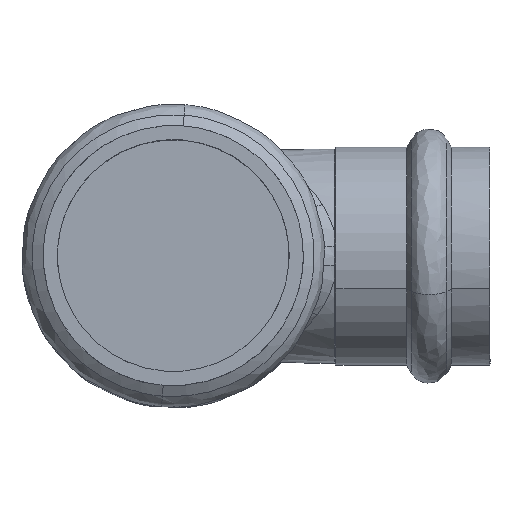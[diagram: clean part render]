
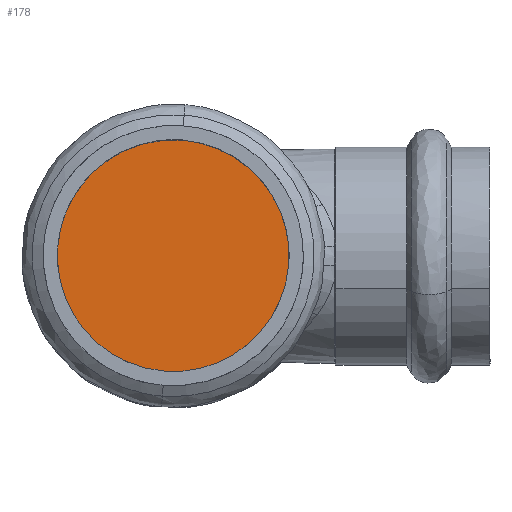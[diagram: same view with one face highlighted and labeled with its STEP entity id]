
A CAD part, top view. The second image highlights one B-rep face of the part: STEP entity #178.
In plain terms, the highlighted free-form (B-spline) face has degree [1, 1] with [2, 2] control points.
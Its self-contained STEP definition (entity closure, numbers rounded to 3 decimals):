
#178=ADVANCED_FACE('',(#358),#359,.T.);
#358=FACE_OUTER_BOUND('',#1378,.T.);
#359=B_SPLINE_SURFACE_WITH_KNOTS('',1,1,((#1379,#1380),(#1381,#1382)),.UNSPECIFIED.,.F.,.F.,.F.,(2,2),(2,2),(0.0,38.05),(0.0,38.05),.UNSPECIFIED.);
#1378=EDGE_LOOP('',(#1985,#1986,#1987));
#1379=CARTESIAN_POINT('',(-19.025,-19.025,23.5));
#1380=CARTESIAN_POINT('',(-19.025,19.025,23.5));
#1381=CARTESIAN_POINT('',(19.025,-19.025,23.5));
#1382=CARTESIAN_POINT('',(19.025,19.025,23.5));
#1985=ORIENTED_EDGE('',*,*,#2248,.T.);
#1986=ORIENTED_EDGE('',*,*,#2071,.T.);
#1987=ORIENTED_EDGE('',*,*,#2249,.T.);
#2071=EDGE_CURVE('',#2304,#2301,#2305,.T.);
#2248=EDGE_CURVE('',#2564,#2304,#2565,.T.);
#2249=EDGE_CURVE('',#2301,#2564,#2566,.T.);
#2301=VERTEX_POINT('',#2810);
#2304=VERTEX_POINT('',#2814);
#2305=(B_SPLINE_CURVE(2,(#2816,#2817,#2818,#2819,#2820),.UNSPECIFIED.,.F.,.F.)B_SPLINE_CURVE_WITH_KNOTS((3,2,3),(-1.571,0.,1.571),.UNSPECIFIED.)RATIONAL_B_SPLINE_CURVE((1.0,0.707,1.0,0.707,1.0))BOUNDED_CURVE()REPRESENTATION_ITEM('')GEOMETRIC_REPRESENTATION_ITEM()CURVE());
#2564=VERTEX_POINT('',#3654);
#2565=(B_SPLINE_CURVE(2,(#3656,#3657,#3658),.UNSPECIFIED.,.F.,.F.)B_SPLINE_CURVE_WITH_KNOTS((3,3),(-3.142,-1.571),.UNSPECIFIED.)RATIONAL_B_SPLINE_CURVE((1.0,0.707,1.0))BOUNDED_CURVE()REPRESENTATION_ITEM('')GEOMETRIC_REPRESENTATION_ITEM()CURVE());
#2566=(B_SPLINE_CURVE(2,(#3666,#3667,#3668),.UNSPECIFIED.,.F.,.F.)B_SPLINE_CURVE_WITH_KNOTS((3,3),(1.571,3.142),.UNSPECIFIED.)RATIONAL_B_SPLINE_CURVE((1.0,0.707,1.0))BOUNDED_CURVE()REPRESENTATION_ITEM('')GEOMETRIC_REPRESENTATION_ITEM()CURVE());
#2810=CARTESIAN_POINT('',(-1.47,-18.968,23.5));
#2814=CARTESIAN_POINT('',(1.47,18.968,23.5));
#2816=CARTESIAN_POINT('',(1.47,18.968,23.5));
#2817=CARTESIAN_POINT('',(-17.498,20.438,23.5));
#2818=CARTESIAN_POINT('',(-18.968,1.47,23.5));
#2819=CARTESIAN_POINT('',(-20.438,-17.498,23.5));
#2820=CARTESIAN_POINT('',(-1.47,-18.968,23.5));
#3654=CARTESIAN_POINT('',(18.968,-1.47,23.5));
#3656=CARTESIAN_POINT('',(18.968,-1.47,23.5));
#3657=CARTESIAN_POINT('',(20.438,17.498,23.5));
#3658=CARTESIAN_POINT('',(1.47,18.968,23.5));
#3666=CARTESIAN_POINT('',(-1.47,-18.968,23.5));
#3667=CARTESIAN_POINT('',(17.498,-20.438,23.5));
#3668=CARTESIAN_POINT('',(18.968,-1.47,23.5));
